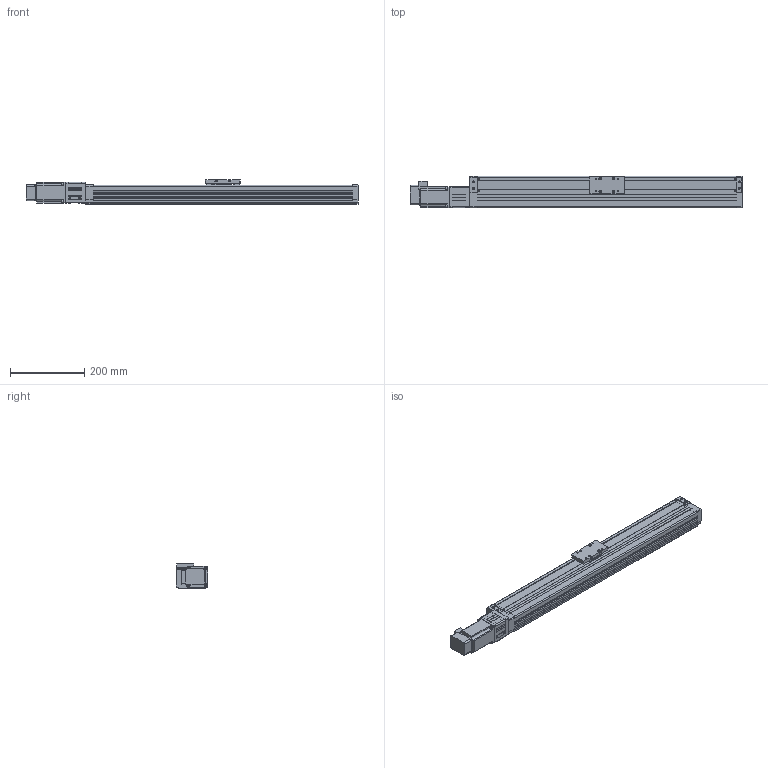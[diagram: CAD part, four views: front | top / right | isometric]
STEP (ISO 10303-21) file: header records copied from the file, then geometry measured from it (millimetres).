
FILE_DESCRIPTION((''),'2;1');
FILE_NAME('D:\製品 (図面)\カタログ用3D\SU部品\SU85×65\ダウンロード用\SU85×65-CM30\SU85×65-600-CM30.stp','2011-07-02T13:37:35',('Tsuchiya'),(''),'Autodesk Inventor 10','Autodesk Inventor 10','');
FILE_SCHEMA(('AUTOMOTIVE_DESIGN { 1 0 10303 214 1 1 1 1 }'));
Length unit declared in the file: millimetre
Products named in the file (4): SU85×65-600-CM30; SU85×65-600-CM301; SU85×65-600-CM302; SU85×65-600-CM303
Assembly tree (3 placements, depth 2):
  SU85×65-600-CM30
    SU85×65-600-CM301
    SU85×65-600-CM302
    SU85×65-600-CM303
Bounding box: 896.5 x 85 x 65 mm (x, y, z)
Volume: 1712517.2 mm3; surface area: 529729.1 mm2
Topology: 9 solids, 9 shells, 974 faces, 2570 edges, 1662 vertices
Faces by surface type: plane 798, cylinder 136, cone 24, torus 12, bspline 4
Full cylindrical faces by diameter (mm): 3.242 x8, 4 x4, 4.134 x16, 4.5 x4, 5.5 x4, 6 x1, 6.35 x1, 7 x8, 8 x1, 11.5 x1, 12 x1, 13 x1, 38.1 x2, 43 x1
Entity records: 29719 total; most frequent: CARTESIAN_POINT 5918, ORIENTED_EDGE 4886, DIRECTION 4688, EDGE_CURVE 2443, VECTOR 1924, LINE 1924, VERTEX_POINT 1628, AXIS2_PLACEMENT_3D 1382
